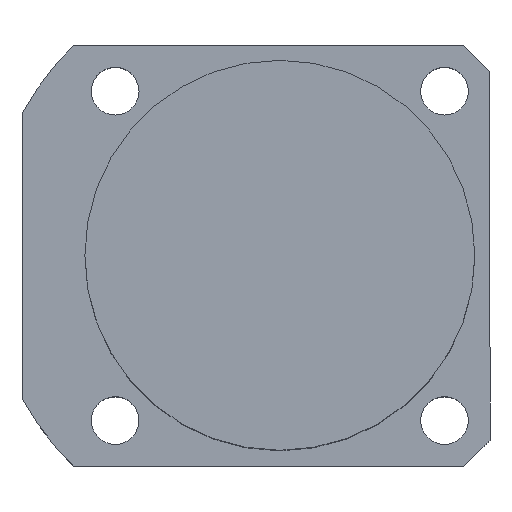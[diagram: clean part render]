
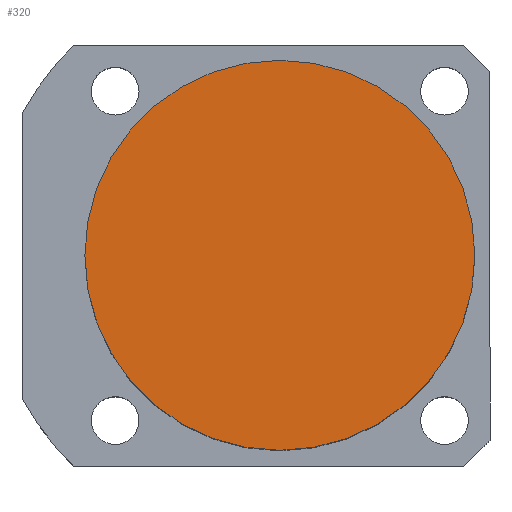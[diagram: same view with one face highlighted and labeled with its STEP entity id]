
A CAD part, top view. The second image highlights one B-rep face of the part: STEP entity #320.
In plain terms, the highlighted planar face has unit normal (0, 0, 1).
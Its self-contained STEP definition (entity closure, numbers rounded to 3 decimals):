
#112 = VERTEX_POINT ( 'NONE', #1458 ) ;
#131 = CIRCLE ( 'NONE', #1695, 45. ) ;
#186 = DIRECTION ( 'NONE',  ( 0., 0., 1. ) ) ;
#209 = ORIENTED_EDGE ( 'NONE', *, *, #357, .T. ) ;
#319 = DIRECTION ( 'NONE',  ( 1., 0., 0. ) ) ;
#320 = ADVANCED_FACE ( 'NONE', ( #1101 ), #1007, .T. ) ;
#357 = EDGE_CURVE ( 'NONE', #112, #878, #1448, .T. ) ;
#449 = DIRECTION ( 'NONE',  ( 1., 0., 0. ) ) ;
#483 = EDGE_LOOP ( 'NONE', ( #910, #209 ) ) ;
#585 = CARTESIAN_POINT ( 'NONE',  ( 0., 0., 89.5 ) ) ;
#686 = CARTESIAN_POINT ( 'NONE',  ( -45., 0., 89.5 ) ) ;
#703 = AXIS2_PLACEMENT_3D ( 'NONE', #585, #186, #319 ) ;
#878 = VERTEX_POINT ( 'NONE', #686 ) ;
#890 = EDGE_CURVE ( 'NONE', #878, #112, #131, .T. ) ;
#910 = ORIENTED_EDGE ( 'NONE', *, *, #890, .T. ) ;
#1007 = PLANE ( 'NONE',  #1298 ) ;
#1032 = DIRECTION ( 'NONE',  ( 1., 0., 0. ) ) ;
#1101 = FACE_OUTER_BOUND ( 'NONE', #483, .T. ) ;
#1144 = DIRECTION ( 'NONE',  ( 0., 0., 1. ) ) ;
#1148 = CARTESIAN_POINT ( 'NONE',  ( 0., 0., 89.5 ) ) ;
#1298 = AXIS2_PLACEMENT_3D ( 'NONE', #1148, #1692, #449 ) ;
#1448 = CIRCLE ( 'NONE', #703, 45. ) ;
#1458 = CARTESIAN_POINT ( 'NONE',  ( 45., 0., 89.5 ) ) ;
#1567 = CARTESIAN_POINT ( 'NONE',  ( 0., 0., 89.5 ) ) ;
#1692 = DIRECTION ( 'NONE',  ( 0., 0., 1. ) ) ;
#1695 = AXIS2_PLACEMENT_3D ( 'NONE', #1567, #1144, #1032 ) ;
